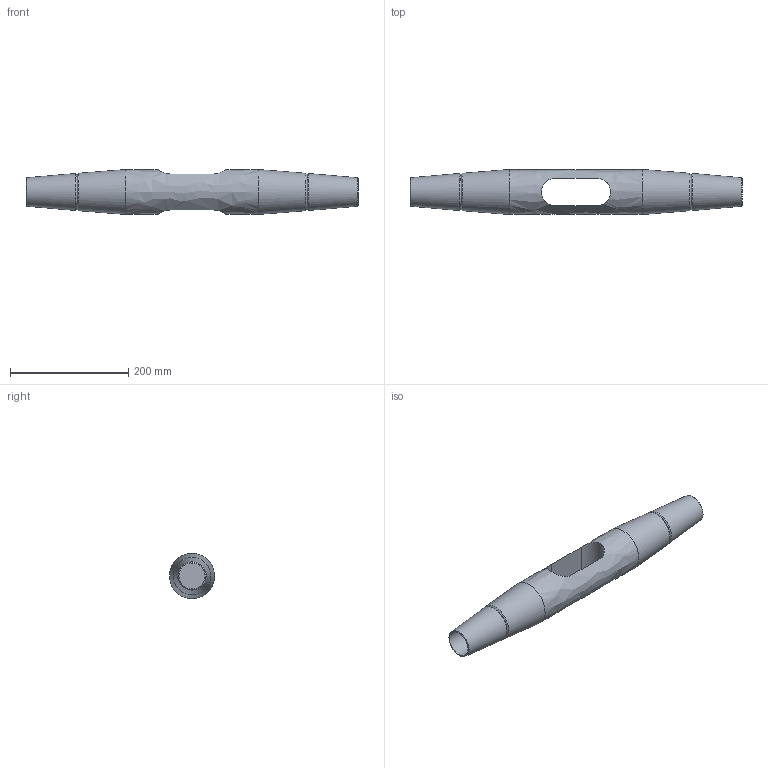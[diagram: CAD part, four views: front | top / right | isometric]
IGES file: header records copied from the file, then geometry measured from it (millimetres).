
Global section: file name: 520-042-KMF; native system: Autodesk Inventor 2016; preprocessor: unknown; author: Administrator; date: 20200702.132332; units: centimetre
Bounding box: 561 x 76 x 75.99 mm (x, y, z)
Volume: 1511079.6 mm3; surface area: 149726.6 mm2
Topology: 1 solids, 1 shells, 21 faces, 53 edges, 36 vertices
Faces by surface type: bspline 21
